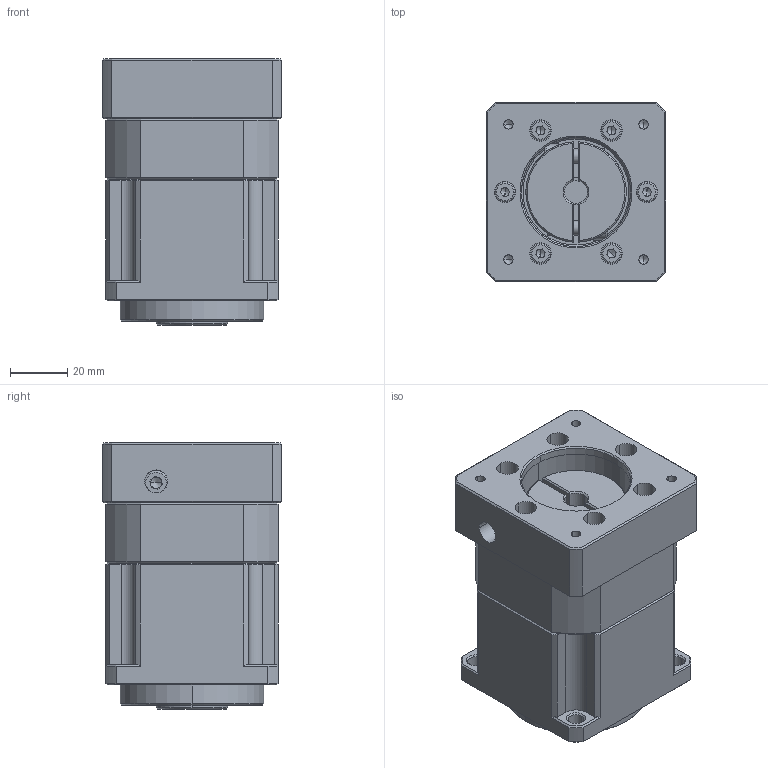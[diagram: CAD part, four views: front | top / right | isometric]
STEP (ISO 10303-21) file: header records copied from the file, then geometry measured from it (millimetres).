
FILE_DESCRIPTION (( 'STEP AP214' ), '1' );
FILE_NAME ('ZPB060-K16-L1-P1-8-38.1-47.14X47.14-M4.step', '2024-04-24T07:35:38', ( '' ), ( '' ), 'SwSTEP 2.0', 'SolidWorks 2016', '' );
FILE_SCHEMA (( 'AUTOMOTIVE_DESIGN' ));
Length unit declared in the file: millimetre
Products named in the file (1): ZPB060-K16-L1-P1-8-38.1-47.14X47.14-M4
Bounding box: 62.5 x 62.5 x 93 mm (x, y, z)
Volume: 254912.6 mm3; surface area: 64683.1 mm2
Topology: 12 solids, 21 shells, 1624 faces, 4323 edges, 2792 vertices
Faces by surface type: plane 898, bspline 315, cylinder 233, cone 162, torus 16
Entity records: 81199 total; most frequent: CARTESIAN_POINT 24724, ORIENTED_EDGE 8542, DIRECTION 6898, EDGE_CURVE 4271, LINE 2798, VECTOR 2798, VERTEX_POINT 2792, AXIS2_PLACEMENT_3D 2050
